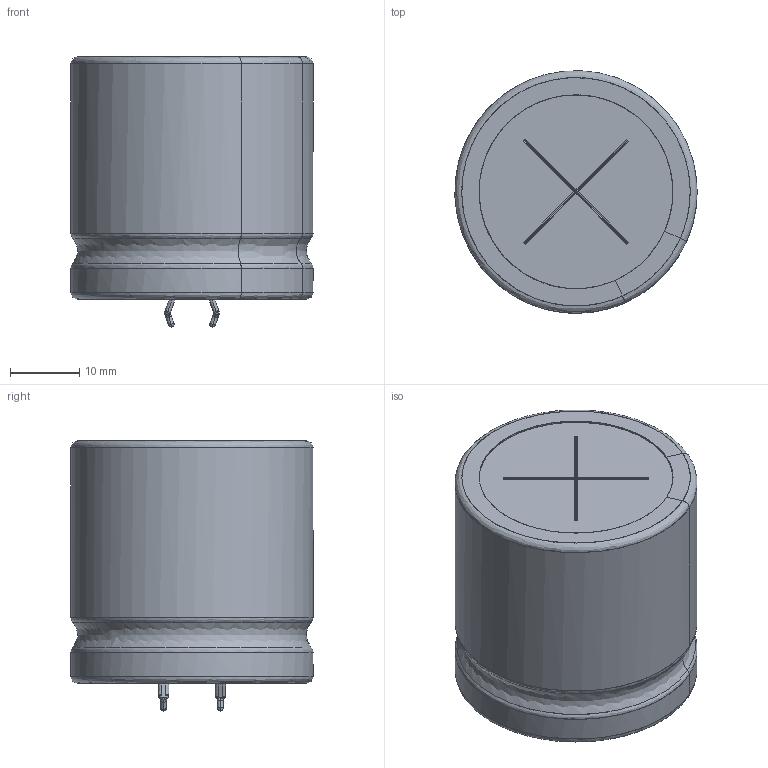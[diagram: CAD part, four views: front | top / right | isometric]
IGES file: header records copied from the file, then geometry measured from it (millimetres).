
Start section: JAMA-IS VERSION  1.0
Bounding box: 35 x 35 x 39.02 mm (x, y, z)
Surface area: 14721.9 mm2 (no closed solid volume)
Topology: 0 solids, 0 shells, 208 faces, 2354 edges, 2318 vertices
Faces by surface type: bspline 208
